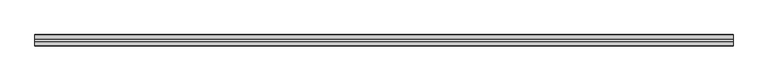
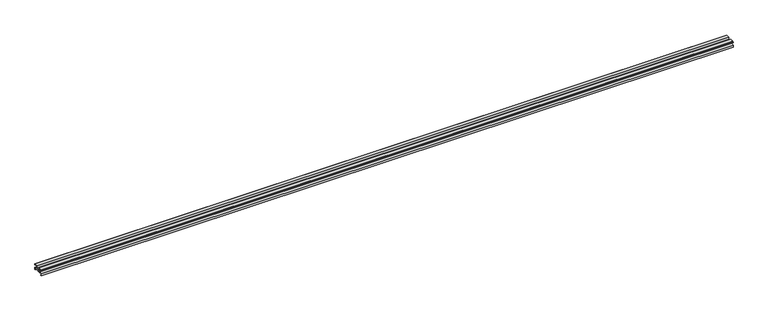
"""IFC4 building model written with IfcOpenShell, lengths in millimetres: proxy geometry, Weiku - Montante - Acoplamento vidro : Weiku - Montante - Acoplamento vidro."""

import ifcopenshell
import ifcopenshell.guid

model = None  # the IFC model being written
_history = None  # IfcOwnerHistory: only IFC2X3 demands one
_inside = {}  # id of a spatial element -> (the spatial element, [elements in it])
_under = {}  # id of a project, library or spatial element -> (it, [spatial elements below it])
_declared = {}  # id of a project -> (the project, [libraries it declares])
_typed = {}  # id of a type object -> (the type object, [elements of that type])
_made_of = {}  # id of a material, layer set ... -> (it, [elements and type objects made of it])


def new_model(schema):
    """Start an empty IFC model of exactly this schema.

    Asked for "IFC4X3", IfcOpenShell would pick the latest addendum, in which some entities
    have other attributes; the version numbers below select the first issue.
    IFC2X3 requires an IfcOwnerHistory on every rooted entity: one is made here for all.
    """
    global model, _history
    if schema == "IFC4X3":
        model = ifcopenshell.file(schema_version=(4, 3, 0, 0))
    else:
        model = ifcopenshell.file(schema=schema)
    _inside.clear()
    _under.clear()
    _declared.clear()
    _typed.clear()
    _made_of.clear()
    _history = None
    if model.schema == "IFC2X3":
        org = make("IfcOrganization", Name="unknown")
        user = make(
            "IfcPersonAndOrganization",
            ThePerson=make("IfcPerson", FamilyName="unknown"),
            TheOrganization=org,
        )
        app = make(
            "IfcApplication",
            ApplicationDeveloper=org,
            Version="unknown",
            ApplicationFullName="unknown",
            ApplicationIdentifier="unknown",
        )
        _history = make(
            "IfcOwnerHistory",
            OwningUser=user,
            OwningApplication=app,
            ChangeAction="ADDED",
            CreationDate=0,
        )
    return model


def make(cls, **values):
    """One entity of the class cls with the attributes given. An attribute that is None is left unset."""
    return model.create_entity(
        cls, **{name: value for name, value in values.items() if value is not None}
    )


def rooted(cls, **values):
    """An entity with a GlobalId (a new one), such as an element, a storey or a relation."""
    return make(cls, GlobalId=ifcopenshell.guid.new(), OwnerHistory=_history, **values)


def si_unit(unit_type, name, prefix=None):
    """IfcSIUnit, for example si_unit("LENGTHUNIT", "METRE", prefix="MILLI")."""
    return make("IfcSIUnit", UnitType=unit_type, Prefix=prefix, Name=name)


def assignment(units):
    """IfcUnitAssignment: the units of a project."""
    return None if units is None else make("IfcUnitAssignment", Units=units)


def point(xyz):
    """IfcCartesianPoint."""
    return None if xyz is None else make("IfcCartesianPoint", Coordinates=xyz)


def direction(xyz):
    """IfcDirection."""
    return None if xyz is None else make("IfcDirection", DirectionRatios=xyz)


def frame(location, z_axis=None, x_axis=None):
    """IfcAxis2Placement3D, a coordinate frame: its origin and axes. An axis left out is left unset."""
    return make(
        "IfcAxis2Placement3D",
        Location=point(location),
        Axis=direction(z_axis),
        RefDirection=direction(x_axis),
    )


def origin():
    """The frame at (0, 0, 0) with its axes left unset."""
    return frame((0.0, 0.0, 0.0))


def place(relative_to, where):
    """IfcLocalPlacement: puts the frame where relative to a parent placement (None: the world)."""
    return make(
        "IfcLocalPlacement", PlacementRelTo=relative_to, RelativePlacement=where
    )


def context(
    kind, dimensions, precision=None, world=None, true_north=None, identifier=None
):
    """IfcGeometricRepresentationContext, for example the 3D "Model" context."""
    return make(
        "IfcGeometricRepresentationContext",
        ContextIdentifier=identifier,
        ContextType=kind,
        CoordinateSpaceDimension=dimensions,
        Precision=precision,
        WorldCoordinateSystem=world,
        TrueNorth=true_north,
    )


def project(units=None, contexts=None):
    """IfcProject with its units and contexts."""
    return rooted(
        "IfcProject",
        Name="project",
        RepresentationContexts=contexts,
        UnitsInContext=assignment(units),
    )


def spatial(cls, under=None, at=None, **own):
    """A site, building, storey or space (cls), placed at a placement, below another one or the project."""
    s = rooted(cls, ObjectPlacement=at, **own)
    if under is not None:
        _under.setdefault(under.id(), (under, []))[1].append(s)
    return s


def polyline(points):
    """IfcPolyline through the points."""
    return make("IfcPolyline", Points=[point(p) for p in points])


def outline(outer, holes=None, kind="AREA"):
    """IfcArbitraryClosedProfileDef: a profile drawn as a closed curve; with holes, ...WithVoids."""
    if holes is None:
        return make("IfcArbitraryClosedProfileDef", ProfileType=kind, OuterCurve=outer)
    return make(
        "IfcArbitraryProfileDefWithVoids",
        ProfileType=kind,
        OuterCurve=outer,
        InnerCurves=holes,
    )


def extrude(swept, where, along, depth):
    """IfcExtrudedAreaSolid: the profile swept, set in the frame where, extruded along a direction by depth."""
    return make(
        "IfcExtrudedAreaSolid",
        SweptArea=swept,
        Position=where,
        ExtrudedDirection=direction(along),
        Depth=depth,
    )


def shape(context_of_items, identifier, shape_type, items):
    """IfcShapeRepresentation: the items that make up one representation, for example the "Body"."""
    return make(
        "IfcShapeRepresentation",
        ContextOfItems=context_of_items,
        RepresentationIdentifier=identifier,
        RepresentationType=shape_type,
        Items=items,
    )


def source(mapping_origin, context_of_items, identifier, shape_type, items):
    """IfcRepresentationMap: a shape defined once, which mapped items show again and again."""
    return make(
        "IfcRepresentationMap",
        MappingOrigin=mapping_origin,
        MappedRepresentation=shape(context_of_items, identifier, shape_type, items),
    )


def transform(
    local_origin,
    x_axis=None,
    y_axis=None,
    z_axis=None,
    scale=None,
    scale2=None,
    scale3=None,
    uniform=True,
):
    """IfcCartesianTransformationOperator3D, or its non-uniform kind. x_axis, y_axis, z_axis: its Axis1, 2, 3."""
    if uniform:
        return make(
            "IfcCartesianTransformationOperator3D",
            Axis1=direction(x_axis),
            Axis2=direction(y_axis),
            LocalOrigin=point(local_origin),
            Scale=scale,
            Axis3=direction(z_axis),
        )
    return make(
        "IfcCartesianTransformationOperator3DnonUniform",
        Axis1=direction(x_axis),
        Axis2=direction(y_axis),
        LocalOrigin=point(local_origin),
        Scale=scale,
        Axis3=direction(z_axis),
        Scale2=scale2,
        Scale3=scale3,
    )


def mapped(mapping_source, mapping_target):
    """IfcMappedItem: shows the shape of a source again, moved by a transform."""
    return make(
        "IfcMappedItem", MappingSource=mapping_source, MappingTarget=mapping_target
    )


def made_of(thing, what):
    """Note that an element or type object is made of a material, layer set ...; save() writes the relation."""
    if what is not None:
        _made_of.setdefault(what.id(), (what, []))[1].append(thing)
    return thing


def element(
    cls,
    number,
    at=None,
    inside=None,
    cuts=None,
    type_object=None,
    material=None,
    context=None,
    identifier="Body",
    shape_type=None,
    held_by="IfcProductDefinitionShape",
    body=None,
    shapes=None,
    **own,
):
    """One element of the class cls, such as IfcWall. Its Tag is "e" and its number.

    at: its placement. inside: the storey or other place that contains it. cuts: it is an
    opening in that element (IfcRelVoidsElement). A single representation is given by context,
    identifier, shape_type and body (its items); several are given by shapes. held_by: the class
    of the entity that holds the representations. save() writes the other relations.
    """
    e = rooted(cls, Tag="e%d" % number, ObjectPlacement=at, **own)
    if body is not None:
        shapes = [shape(context, identifier, shape_type, body)]
    if shapes is not None:
        e.Representation = make(held_by, Representations=shapes)
    if inside is not None:
        _inside.setdefault(inside.id(), (inside, []))[1].append(e)
    if cuts is not None:
        rooted(
            "IfcRelVoidsElement", RelatingBuildingElement=cuts, RelatedOpeningElement=e
        )
    if type_object is not None:
        _typed.setdefault(type_object.id(), (type_object, []))[1].append(e)
    return made_of(e, material)


def aggregate(whole, parts):
    """IfcRelAggregates: a whole, such as a stair, and the parts it consists of."""
    return rooted("IfcRelAggregates", RelatingObject=whole, RelatedObjects=parts)


def save(model, path):
    """Write the relations noted so far, then the file.

    IfcRelAggregates (storeys below a building ...), IfcRelContainedInSpatialStructure (elements
    in a storey), IfcRelDefinesByType, IfcRelAssociatesMaterial and IfcRelDeclares: one each for
    every whole, place, type object, material and project.
    """
    for whole, parts in _under.values():
        aggregate(whole, parts)
    for where, things in _inside.values():
        rooted(
            "IfcRelContainedInSpatialStructure",
            RelatedElements=things,
            RelatingStructure=where,
        )
    for kind, things in _typed.values():
        rooted("IfcRelDefinesByType", RelatedObjects=things, RelatingType=kind)
    for what, things in _made_of.values():
        rooted("IfcRelAssociatesMaterial", RelatedObjects=things, RelatingMaterial=what)
    for by, libraries in _declared.values():
        rooted("IfcRelDeclares", RelatingContext=by, RelatedDefinitions=libraries)
    model.write(path)


def generic_models_5f910d5e(model_context):
    return source(origin(), model_context, "Body", "SweptSolid", [
        extrude(outline(polyline([(35.405, 5.1494), (12.495, 5.1494), (12.495, 6.8004), (2.159, 6.8004), (2.159, 2.6094), (4.0216, 2.6094), (4.0216, 0.0), (-0.0014508, 0.0), (-0.0014508, 8.79), (12.954, 8.79), (12.954, 23.3104), (4.3603, 23.3104), (4.3603, 19.204), (0.0, 19.204), (0.0, 22.8024), (0.9736, 22.8024), (0.9736, 20.3894), (3.175, 20.3894), (3.175, 23.9454), (2.3735496, 23.9454), (2.3735496, 25.3), (17.4836, 25.3), (17.4836, 16.283), (15.4516, 16.283), (15.4516, 8.8), (32.4484, 8.8), (32.4484, 16.283), (30.4164, 16.283), (30.4164, 25.3), (45.5264504, 25.3), (45.5264504, 23.9454), (44.725, 23.9454), (44.725, 20.3894), (46.9264, 20.3894), (46.9264, 22.8024), (47.9, 22.8024), (47.9, 19.204), (43.5397, 19.204), (43.5397, 23.3104), (34.946, 23.3104), (34.946, 8.79), (47.9014508, 8.79), (47.9014508, 0.0), (43.8784, 0.0), (43.8784, 2.6094), (45.741, 2.6094), (45.741, 6.8004), (35.405, 6.8004), (35.405, 5.1494)])), frame((-1452.9, 0.0, 0.0), z_axis=(1.0, 0.0, 0.0), x_axis=(0.0, 1.0, 0.0)), (0.0, 0.0, 1.0), 2905.8),
    ])


if __name__ == "__main__":
    model = new_model("IFC4")
    model_context = context("Model", 3, world=origin())
    ifc_project = project(units=[si_unit("LENGTHUNIT", "METRE", prefix="MILLI")], contexts=[model_context])
    site = spatial("IfcSite", under=ifc_project)
    building = spatial("IfcBuilding", under=site)
    placement = place(None, origin())
    generic_models_shape = generic_models_5f910d5e(model_context)
    element("IfcBuildingElementProxy", 1, Name="Weiku - Montante - Acoplamento vidro : Weiku - Montante - Acoplamento vidro", ObjectType="Weiku - Montante - Acoplamento vidro : Weiku - Montante - Acoplamento vidro", at=placement, inside=building, context=model_context, shape_type="MappedRepresentation", body=[
        mapped(generic_models_shape, transform((0.0, 0.0, 0.0), x_axis=(1.0, 0.0, 0.0), y_axis=(0.0, 1.0, 0.0), z_axis=(0.0, 0.0, 1.0))),
    ])
    save(model, "model.ifc")
